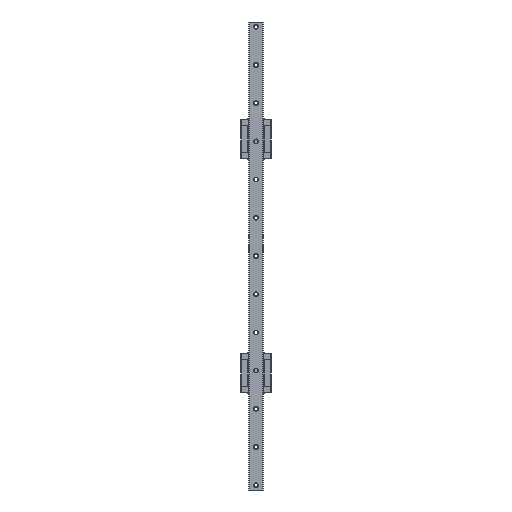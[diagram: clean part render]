
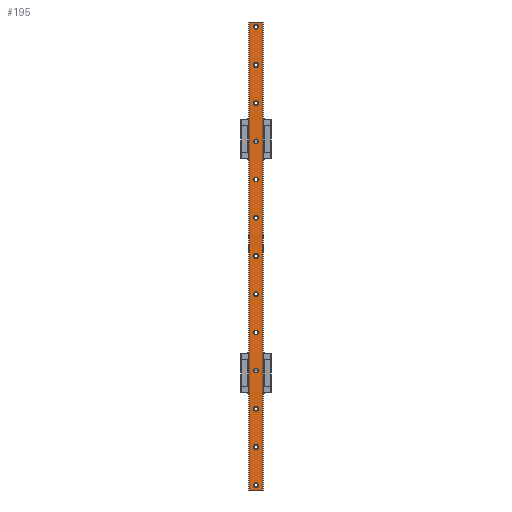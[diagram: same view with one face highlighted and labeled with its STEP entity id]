
A CAD part, front view. The second image highlights one B-rep face of the part: STEP entity #195.
In plain terms, the highlighted planar face has unit normal (0, -1, 0).
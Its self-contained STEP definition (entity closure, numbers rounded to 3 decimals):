
#195 = ADVANCED_FACE( '', ( #541, #542, #543, #544, #545, #546, #547, #548, #549, #550, #551, #552, #553, #554 ), #555, .F. );
#541 = FACE_BOUND( '', #1263, .T. );
#542 = FACE_BOUND( '', #1264, .T. );
#543 = FACE_BOUND( '', #1265, .T. );
#544 = FACE_BOUND( '', #1266, .T. );
#545 = FACE_BOUND( '', #1267, .T. );
#546 = FACE_BOUND( '', #1268, .T. );
#547 = FACE_BOUND( '', #1269, .T. );
#548 = FACE_BOUND( '', #1270, .T. );
#549 = FACE_BOUND( '', #1271, .T. );
#550 = FACE_BOUND( '', #1272, .T. );
#551 = FACE_BOUND( '', #1273, .T. );
#552 = FACE_BOUND( '', #1274, .T. );
#553 = FACE_BOUND( '', #1275, .T. );
#554 = FACE_OUTER_BOUND( '', #1276, .T. );
#555 = PLANE( '', #1277 );
#1263 = EDGE_LOOP( '', ( #2048 ) );
#1264 = EDGE_LOOP( '', ( #2049 ) );
#1265 = EDGE_LOOP( '', ( #2050 ) );
#1266 = EDGE_LOOP( '', ( #2051 ) );
#1267 = EDGE_LOOP( '', ( #2052 ) );
#1268 = EDGE_LOOP( '', ( #2053 ) );
#1269 = EDGE_LOOP( '', ( #2054 ) );
#1270 = EDGE_LOOP( '', ( #2055 ) );
#1271 = EDGE_LOOP( '', ( #2056 ) );
#1272 = EDGE_LOOP( '', ( #2057 ) );
#1273 = EDGE_LOOP( '', ( #2058 ) );
#1274 = EDGE_LOOP( '', ( #2059 ) );
#1275 = EDGE_LOOP( '', ( #2060 ) );
#1276 = EDGE_LOOP( '', ( #2061, #2062, #2063, #2064 ) );
#1277 = AXIS2_PLACEMENT_3D( '', #2065, #2066, #2067 );
#2048 = ORIENTED_EDGE( '', *, *, #4586, .F. );
#2049 = ORIENTED_EDGE( '', *, *, #4587, .F. );
#2050 = ORIENTED_EDGE( '', *, *, #4588, .F. );
#2051 = ORIENTED_EDGE( '', *, *, #4589, .F. );
#2052 = ORIENTED_EDGE( '', *, *, #4590, .F. );
#2053 = ORIENTED_EDGE( '', *, *, #4591, .F. );
#2054 = ORIENTED_EDGE( '', *, *, #4592, .F. );
#2055 = ORIENTED_EDGE( '', *, *, #4593, .F. );
#2056 = ORIENTED_EDGE( '', *, *, #4594, .F. );
#2057 = ORIENTED_EDGE( '', *, *, #4595, .F. );
#2058 = ORIENTED_EDGE( '', *, *, #4596, .F. );
#2059 = ORIENTED_EDGE( '', *, *, #4597, .F. );
#2060 = ORIENTED_EDGE( '', *, *, #4598, .F. );
#2061 = ORIENTED_EDGE( '', *, *, #4599, .F. );
#2062 = ORIENTED_EDGE( '', *, *, #4600, .F. );
#2063 = ORIENTED_EDGE( '', *, *, #4601, .F. );
#2064 = ORIENTED_EDGE( '', *, *, #4584, .T. );
#2065 = CARTESIAN_POINT( '', ( -7., 0., 255. ) );
#2066 = DIRECTION( '', ( 0., 1., 0. ) );
#2067 = DIRECTION( '', ( 0., 0., 1. ) );
#4584 = EDGE_CURVE( '', #5450, #5448, #5451, .T. );
#4586 = EDGE_CURVE( '', #5453, #5453, #5454, .T. );
#4587 = EDGE_CURVE( '', #5455, #5455, #5456, .T. );
#4588 = EDGE_CURVE( '', #5457, #5457, #5458, .T. );
#4589 = EDGE_CURVE( '', #5459, #5459, #5460, .T. );
#4590 = EDGE_CURVE( '', #5461, #5461, #5462, .T. );
#4591 = EDGE_CURVE( '', #5463, #5463, #5464, .T. );
#4592 = EDGE_CURVE( '', #5465, #5465, #5466, .T. );
#4593 = EDGE_CURVE( '', #5467, #5467, #5468, .T. );
#4594 = EDGE_CURVE( '', #5469, #5469, #5470, .T. );
#4595 = EDGE_CURVE( '', #5471, #5471, #5472, .T. );
#4596 = EDGE_CURVE( '', #5473, #5473, #5474, .T. );
#4597 = EDGE_CURVE( '', #5475, #5475, #5476, .T. );
#4598 = EDGE_CURVE( '', #5477, #5477, #5478, .T. );
#4599 = EDGE_CURVE( '', #5479, #5448, #5480, .T. );
#4600 = EDGE_CURVE( '', #5481, #5479, #5482, .T. );
#4601 = EDGE_CURVE( '', #5450, #5481, #5483, .T. );
#5448 = VERTEX_POINT( '', #6872 );
#5450 = VERTEX_POINT( '', #6875 );
#5451 = LINE( '', #6876, #6877 );
#5453 = VERTEX_POINT( '', #6880 );
#5454 = CIRCLE( '', #6881, 2.5 );
#5455 = VERTEX_POINT( '', #6882 );
#5456 = CIRCLE( '', #6883, 2.5 );
#5457 = VERTEX_POINT( '', #6884 );
#5458 = CIRCLE( '', #6885, 2.5 );
#5459 = VERTEX_POINT( '', #6886 );
#5460 = CIRCLE( '', #6887, 2.5 );
#5461 = VERTEX_POINT( '', #6888 );
#5462 = CIRCLE( '', #6889, 2.5 );
#5463 = VERTEX_POINT( '', #6890 );
#5464 = CIRCLE( '', #6891, 2.5 );
#5465 = VERTEX_POINT( '', #6892 );
#5466 = CIRCLE( '', #6893, 2.5 );
#5467 = VERTEX_POINT( '', #6894 );
#5468 = CIRCLE( '', #6895, 2.5 );
#5469 = VERTEX_POINT( '', #6896 );
#5470 = CIRCLE( '', #6897, 2.5 );
#5471 = VERTEX_POINT( '', #6898 );
#5472 = CIRCLE( '', #6899, 2.5 );
#5473 = VERTEX_POINT( '', #6900 );
#5474 = CIRCLE( '', #6901, 2.5 );
#5475 = VERTEX_POINT( '', #6902 );
#5476 = CIRCLE( '', #6903, 2.5 );
#5477 = VERTEX_POINT( '', #6904 );
#5478 = CIRCLE( '', #6905, 2.5 );
#5479 = VERTEX_POINT( '', #6906 );
#5480 = LINE( '', #6907, #6908 );
#5481 = VERTEX_POINT( '', #6909 );
#5482 = LINE( '', #6910, #6911 );
#5483 = LINE( '', #6912, #6913 );
#6872 = CARTESIAN_POINT( '', ( -7., 0., -245. ) );
#6875 = CARTESIAN_POINT( '', ( -7., 0., 245. ) );
#6876 = CARTESIAN_POINT( '', ( -7., 0., 255. ) );
#6877 = VECTOR( '', #8898, 1000. );
#6880 = CARTESIAN_POINT( '', ( 0., 0., 237.5 ) );
#6881 = AXIS2_PLACEMENT_3D( '', #8900, #8901, #8902 );
#6882 = CARTESIAN_POINT( '', ( 0., 0., 197.5 ) );
#6883 = AXIS2_PLACEMENT_3D( '', #8903, #8904, #8905 );
#6884 = CARTESIAN_POINT( '', ( 0., 0., 157.5 ) );
#6885 = AXIS2_PLACEMENT_3D( '', #8906, #8907, #8908 );
#6886 = CARTESIAN_POINT( '', ( 0., 0., 117.5 ) );
#6887 = AXIS2_PLACEMENT_3D( '', #8909, #8910, #8911 );
#6888 = CARTESIAN_POINT( '', ( 0., 0., 77.5 ) );
#6889 = AXIS2_PLACEMENT_3D( '', #8912, #8913, #8914 );
#6890 = CARTESIAN_POINT( '', ( 0., 0., 37.5 ) );
#6891 = AXIS2_PLACEMENT_3D( '', #8915, #8916, #8917 );
#6892 = CARTESIAN_POINT( '', ( 0., 0., -2.5 ) );
#6893 = AXIS2_PLACEMENT_3D( '', #8918, #8919, #8920 );
#6894 = CARTESIAN_POINT( '', ( 0., 0., -42.5 ) );
#6895 = AXIS2_PLACEMENT_3D( '', #8921, #8922, #8923 );
#6896 = CARTESIAN_POINT( '', ( 0., 0., -82.5 ) );
#6897 = AXIS2_PLACEMENT_3D( '', #8924, #8925, #8926 );
#6898 = CARTESIAN_POINT( '', ( 0., 0., -122.5 ) );
#6899 = AXIS2_PLACEMENT_3D( '', #8927, #8928, #8929 );
#6900 = CARTESIAN_POINT( '', ( 0., 0., -162.5 ) );
#6901 = AXIS2_PLACEMENT_3D( '', #8930, #8931, #8932 );
#6902 = CARTESIAN_POINT( '', ( 0., 0., -202.5 ) );
#6903 = AXIS2_PLACEMENT_3D( '', #8933, #8934, #8935 );
#6904 = CARTESIAN_POINT( '', ( 0., 0., -242.5 ) );
#6905 = AXIS2_PLACEMENT_3D( '', #8936, #8937, #8938 );
#6906 = CARTESIAN_POINT( '', ( 7., 0., -245. ) );
#6907 = CARTESIAN_POINT( '', ( -7., 0., -245. ) );
#6908 = VECTOR( '', #8939, 1000. );
#6909 = CARTESIAN_POINT( '', ( 7., 0., 245. ) );
#6910 = CARTESIAN_POINT( '', ( 7., 0., 255. ) );
#6911 = VECTOR( '', #8940, 1000. );
#6912 = CARTESIAN_POINT( '', ( -7., 0., 245. ) );
#6913 = VECTOR( '', #8941, 1000. );
#8898 = DIRECTION( '', ( 0., 0., -1. ) );
#8900 = CARTESIAN_POINT( '', ( 0., 0., 240. ) );
#8901 = DIRECTION( '', ( 0., -1., 0. ) );
#8902 = DIRECTION( '', ( 0., 0., -1. ) );
#8903 = CARTESIAN_POINT( '', ( 0., 0., 200. ) );
#8904 = DIRECTION( '', ( 0., -1., 0. ) );
#8905 = DIRECTION( '', ( 0., 0., -1. ) );
#8906 = CARTESIAN_POINT( '', ( 0., 0., 160. ) );
#8907 = DIRECTION( '', ( 0., -1., 0. ) );
#8908 = DIRECTION( '', ( 0., 0., -1. ) );
#8909 = CARTESIAN_POINT( '', ( 0., 0., 120. ) );
#8910 = DIRECTION( '', ( 0., -1., 0. ) );
#8911 = DIRECTION( '', ( 0., 0., -1. ) );
#8912 = CARTESIAN_POINT( '', ( 0., 0., 80. ) );
#8913 = DIRECTION( '', ( 0., -1., 0. ) );
#8914 = DIRECTION( '', ( 0., 0., -1. ) );
#8915 = CARTESIAN_POINT( '', ( 0., 0., 40. ) );
#8916 = DIRECTION( '', ( 0., -1., 0. ) );
#8917 = DIRECTION( '', ( 0., 0., -1. ) );
#8918 = CARTESIAN_POINT( '', ( 0., 0., 0. ) );
#8919 = DIRECTION( '', ( 0., -1., 0. ) );
#8920 = DIRECTION( '', ( 0., 0., -1. ) );
#8921 = CARTESIAN_POINT( '', ( 0., 0., -40. ) );
#8922 = DIRECTION( '', ( 0., -1., 0. ) );
#8923 = DIRECTION( '', ( 0., 0., -1. ) );
#8924 = CARTESIAN_POINT( '', ( 0., 0., -80. ) );
#8925 = DIRECTION( '', ( 0., -1., 0. ) );
#8926 = DIRECTION( '', ( 0., 0., -1. ) );
#8927 = CARTESIAN_POINT( '', ( 0., 0., -120. ) );
#8928 = DIRECTION( '', ( 0., -1., 0. ) );
#8929 = DIRECTION( '', ( 0., 0., -1. ) );
#8930 = CARTESIAN_POINT( '', ( 0., 0., -160. ) );
#8931 = DIRECTION( '', ( 0., -1., 0. ) );
#8932 = DIRECTION( '', ( 0., 0., -1. ) );
#8933 = CARTESIAN_POINT( '', ( 0., 0., -200. ) );
#8934 = DIRECTION( '', ( 0., -1., 0. ) );
#8935 = DIRECTION( '', ( 0., 0., -1. ) );
#8936 = CARTESIAN_POINT( '', ( 0., 0., -240. ) );
#8937 = DIRECTION( '', ( 0., -1., 0. ) );
#8938 = DIRECTION( '', ( 0., 0., -1. ) );
#8939 = DIRECTION( '', ( -1., 0., 0. ) );
#8940 = DIRECTION( '', ( 0., 0., -1. ) );
#8941 = DIRECTION( '', ( 1., 0., 0. ) );
